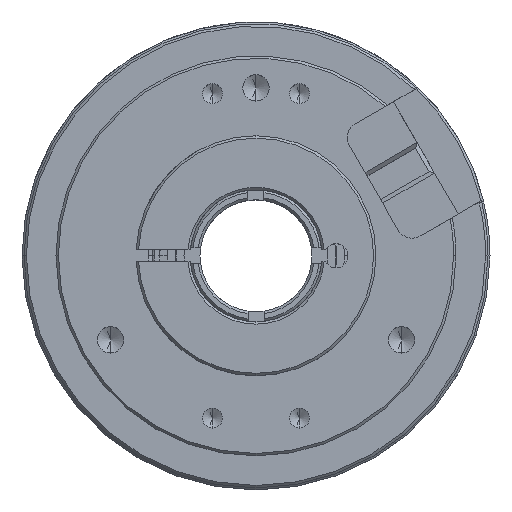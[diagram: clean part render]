
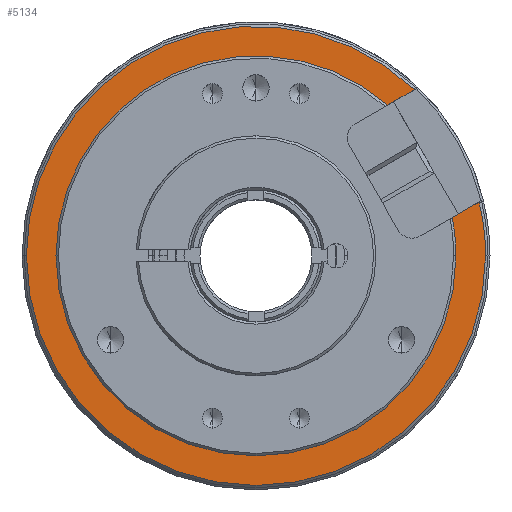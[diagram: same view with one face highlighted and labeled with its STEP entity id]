
A CAD part, top view. The second image highlights one B-rep face of the part: STEP entity #5134.
In plain terms, the highlighted planar face has unit normal (0, 0, 1).
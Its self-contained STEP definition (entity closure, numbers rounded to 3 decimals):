
#306 = CIRCLE ( 'NONE', #15601, 25. ) ;
#589 = CARTESIAN_POINT ( 'NONE',  ( 28.7, 0., -1. ) ) ;
#900 = VECTOR ( 'NONE', #7812, 1000. ) ;
#1368 = CIRCLE ( 'NONE', #6153, 28.7 ) ;
#1378 = AXIS2_PLACEMENT_3D ( 'NONE', #15194, #4133, #12918 ) ;
#1548 = DIRECTION ( 'NONE',  ( 0., 0., 1. ) ) ;
#2459 = CARTESIAN_POINT ( 'NONE',  ( 0., 0., -1. ) ) ;
#3110 = CARTESIAN_POINT ( 'NONE',  ( 24.533, 4.811, -1. ) ) ;
#3468 = EDGE_CURVE ( 'NONE', #15471, #11739, #4035, .T. ) ;
#3677 = EDGE_CURVE ( 'NONE', #15825, #15471, #10753, .T. ) ;
#4035 = CIRCLE ( 'NONE', #15354, 28.7 ) ;
#4133 = DIRECTION ( 'NONE',  ( 0., 0., 1. ) ) ;
#4562 = DIRECTION ( 'NONE',  ( 1., 0., 0. ) ) ;
#4670 = CARTESIAN_POINT ( 'NONE',  ( 0., 0., -1. ) ) ;
#4976 = CARTESIAN_POINT ( 'NONE',  ( 0., 0., -1. ) ) ;
#5090 = DIRECTION ( 'NONE',  ( 0., 0., 1. ) ) ;
#5134 = ADVANCED_FACE ( 'NONE', ( #8243 ), #12510, .T. ) ;
#5152 = EDGE_CURVE ( 'NONE', #15825, #6006, #11558, .T. ) ;
#5187 = ORIENTED_EDGE ( 'NONE', *, *, #15326, .F. ) ;
#5345 = VERTEX_POINT ( 'NONE', #3110 ) ;
#5772 = CIRCLE ( 'NONE', #16017, 28.7 ) ;
#5820 = EDGE_CURVE ( 'NONE', #15087, #5345, #10542, .T. ) ;
#5995 = LINE ( 'NONE', #11494, #900 ) ;
#6006 = VERTEX_POINT ( 'NONE', #12467 ) ;
#6153 = AXIS2_PLACEMENT_3D ( 'NONE', #6323, #5090, #12609 ) ;
#6323 = CARTESIAN_POINT ( 'NONE',  ( 0., 0., -1. ) ) ;
#6362 = CARTESIAN_POINT ( 'NONE',  ( 27.894, 6.752, -1. ) ) ;
#6591 = EDGE_CURVE ( 'NONE', #7421, #9755, #5772, .T. ) ;
#7044 = ORIENTED_EDGE ( 'NONE', *, *, #3677, .T. ) ;
#7198 = DIRECTION ( 'NONE',  ( 0.866, 0.5, 0. ) ) ;
#7355 = CARTESIAN_POINT ( 'NONE',  ( 19.794, 20.781, -1. ) ) ;
#7386 = DIRECTION ( 'NONE',  ( 0., 0., 1. ) ) ;
#7421 = VERTEX_POINT ( 'NONE', #589 ) ;
#7435 = DIRECTION ( 'NONE',  ( 0., 0., 1. ) ) ;
#7488 = DIRECTION ( 'NONE',  ( 1., 0., 0. ) ) ;
#7750 = EDGE_CURVE ( 'NONE', #11739, #7421, #1368, .T. ) ;
#7812 = DIRECTION ( 'NONE',  ( 0.866, 0.5, 0. ) ) ;
#7920 = ORIENTED_EDGE ( 'NONE', *, *, #6591, .T. ) ;
#8056 = ORIENTED_EDGE ( 'NONE', *, *, #9198, .F. ) ;
#8216 = AXIS2_PLACEMENT_3D ( 'NONE', #12665, #13958, #11434 ) ;
#8243 = FACE_OUTER_BOUND ( 'NONE', #14152, .T. ) ;
#9093 = CARTESIAN_POINT ( 'NONE',  ( 0., 0., -1. ) ) ;
#9172 = CARTESIAN_POINT ( 'NONE',  ( -28.7, 0., -1. ) ) ;
#9198 = EDGE_CURVE ( 'NONE', #5345, #9755, #5995, .T. ) ;
#9269 = DIRECTION ( 'NONE',  ( 1., 0., 0. ) ) ;
#9755 = VERTEX_POINT ( 'NONE', #6362 ) ;
#10542 = CIRCLE ( 'NONE', #1378, 25. ) ;
#10753 = LINE ( 'NONE', #15804, #13073 ) ;
#11434 = DIRECTION ( 'NONE',  ( 1., 0., 0. ) ) ;
#11494 = CARTESIAN_POINT ( 'NONE',  ( 4.05, -7.015, -1. ) ) ;
#11558 = CIRCLE ( 'NONE', #8216, 25. ) ;
#11739 = VERTEX_POINT ( 'NONE', #9172 ) ;
#11784 = ORIENTED_EDGE ( 'NONE', *, *, #5152, .F. ) ;
#11926 = ORIENTED_EDGE ( 'NONE', *, *, #5820, .F. ) ;
#12073 = DIRECTION ( 'NONE',  ( 0., 0., 1. ) ) ;
#12120 = AXIS2_PLACEMENT_3D ( 'NONE', #4976, #7435, #7488 ) ;
#12467 = CARTESIAN_POINT ( 'NONE',  ( -25., 0., -1. ) ) ;
#12510 = PLANE ( 'NONE',  #12120 ) ;
#12609 = DIRECTION ( 'NONE',  ( 1., 0., 0. ) ) ;
#12665 = CARTESIAN_POINT ( 'NONE',  ( 0., 0., -1. ) ) ;
#12918 = DIRECTION ( 'NONE',  ( 1., 0., 0. ) ) ;
#13073 = VECTOR ( 'NONE', #7198, 1000. ) ;
#13183 = CARTESIAN_POINT ( 'NONE',  ( 16.433, 18.841, -1. ) ) ;
#13861 = ORIENTED_EDGE ( 'NONE', *, *, #3468, .T. ) ;
#13958 = DIRECTION ( 'NONE',  ( 0., 0., 1. ) ) ;
#14152 = EDGE_LOOP ( 'NONE', ( #7044, #13861, #14535, #7920, #8056, #11926, #5187, #11784 ) ) ;
#14535 = ORIENTED_EDGE ( 'NONE', *, *, #7750, .T. ) ;
#14747 = DIRECTION ( 'NONE',  ( 1., 0., 0. ) ) ;
#15087 = VERTEX_POINT ( 'NONE', #15376 ) ;
#15194 = CARTESIAN_POINT ( 'NONE',  ( 0., 0., -1. ) ) ;
#15326 = EDGE_CURVE ( 'NONE', #6006, #15087, #306, .T. ) ;
#15354 = AXIS2_PLACEMENT_3D ( 'NONE', #9093, #1548, #9269 ) ;
#15376 = CARTESIAN_POINT ( 'NONE',  ( 25., 0., -1. ) ) ;
#15471 = VERTEX_POINT ( 'NONE', #7355 ) ;
#15601 = AXIS2_PLACEMENT_3D ( 'NONE', #4670, #12073, #4562 ) ;
#15804 = CARTESIAN_POINT ( 'NONE',  ( -4.05, 7.015, -1. ) ) ;
#15825 = VERTEX_POINT ( 'NONE', #13183 ) ;
#16017 = AXIS2_PLACEMENT_3D ( 'NONE', #2459, #7386, #14747 ) ;
